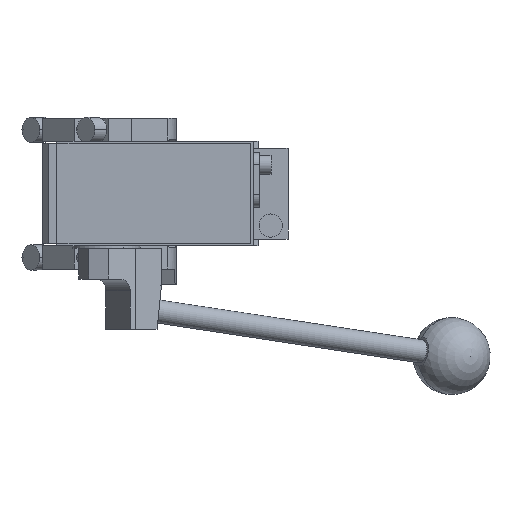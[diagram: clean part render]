
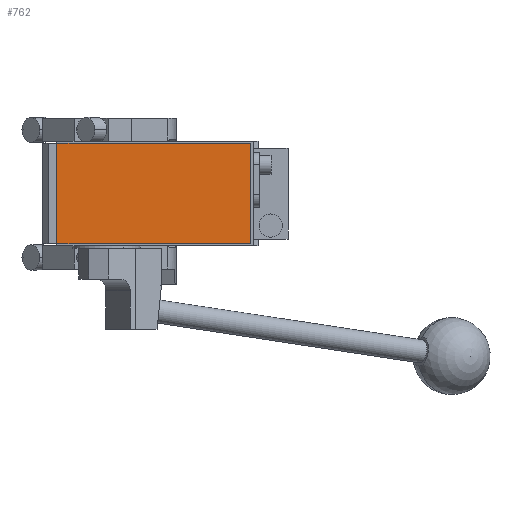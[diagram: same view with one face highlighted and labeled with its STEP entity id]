
A CAD part, front view. The second image highlights one B-rep face of the part: STEP entity #762.
In plain terms, the highlighted planar face has unit normal (0, -1, 0).
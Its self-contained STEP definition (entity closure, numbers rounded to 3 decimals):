
#67 = CARTESIAN_POINT ( 'NONE',  ( 81., -286.5, 26. ) ) ;
#405 = CARTESIAN_POINT ( 'NONE',  ( 0., -286.5, 0. ) ) ;
#762 = ADVANCED_FACE ( 'NONE', ( #3793 ), #2857, .T. ) ;
#1019 = VECTOR ( 'NONE', #8167, 1000. ) ;
#1718 = DIRECTION ( 'NONE',  ( 0., -1., 0. ) ) ;
#2857 = PLANE ( 'NONE',  #12329 ) ;
#3126 = VERTEX_POINT ( 'NONE', #4920 ) ;
#3448 = VERTEX_POINT ( 'NONE', #7142 ) ;
#3587 = LINE ( 'NONE', #67, #7341 ) ;
#3650 = EDGE_CURVE ( 'NONE', #3126, #4046, #3587, .T. ) ;
#3707 = EDGE_CURVE ( 'NONE', #3448, #12517, #8314, .T. ) ;
#3757 = DIRECTION ( 'NONE',  ( 0., 0., 1. ) ) ;
#3793 = FACE_OUTER_BOUND ( 'NONE', #7368, .T. ) ;
#4046 = VERTEX_POINT ( 'NONE', #6522 ) ;
#4104 = ORIENTED_EDGE ( 'NONE', *, *, #4343, .T. ) ;
#4343 = EDGE_CURVE ( 'NONE', #4046, #3448, #14330, .T. ) ;
#4659 = ORIENTED_EDGE ( 'NONE', *, *, #3707, .T. ) ;
#4920 = CARTESIAN_POINT ( 'NONE',  ( 81., -286.5, -26. ) ) ;
#5782 = DIRECTION ( 'NONE',  ( 1., 0., 0. ) ) ;
#6078 = ORIENTED_EDGE ( 'NONE', *, *, #11518, .T. ) ;
#6273 = DIRECTION ( 'NONE',  ( -1., 0., 0. ) ) ;
#6522 = CARTESIAN_POINT ( 'NONE',  ( 81., -286.5, 26. ) ) ;
#7142 = CARTESIAN_POINT ( 'NONE',  ( -19., -286.5, 26. ) ) ;
#7341 = VECTOR ( 'NONE', #3757, 1000. ) ;
#7368 = EDGE_LOOP ( 'NONE', ( #4659, #6078, #11480, #4104 ) ) ;
#8167 = DIRECTION ( 'NONE',  ( 0., 0., -1. ) ) ;
#8237 = CARTESIAN_POINT ( 'NONE',  ( -19., -286.5, 26. ) ) ;
#8290 = LINE ( 'NONE', #12691, #11111 ) ;
#8314 = LINE ( 'NONE', #8237, #1019 ) ;
#8780 = CARTESIAN_POINT ( 'NONE',  ( -19., -286.5, -26. ) ) ;
#9479 = CARTESIAN_POINT ( 'NONE',  ( -19., -286.5, 26. ) ) ;
#10042 = VECTOR ( 'NONE', #6273, 1000. ) ;
#11111 = VECTOR ( 'NONE', #5782, 1000. ) ;
#11480 = ORIENTED_EDGE ( 'NONE', *, *, #3650, .T. ) ;
#11518 = EDGE_CURVE ( 'NONE', #12517, #3126, #8290, .T. ) ;
#12329 = AXIS2_PLACEMENT_3D ( 'NONE', #405, #1718, #13341 ) ;
#12517 = VERTEX_POINT ( 'NONE', #8780 ) ;
#12691 = CARTESIAN_POINT ( 'NONE',  ( -19., -286.5, -26. ) ) ;
#13341 = DIRECTION ( 'NONE',  ( 0., 0., -1. ) ) ;
#14330 = LINE ( 'NONE', #9479, #10042 ) ;
